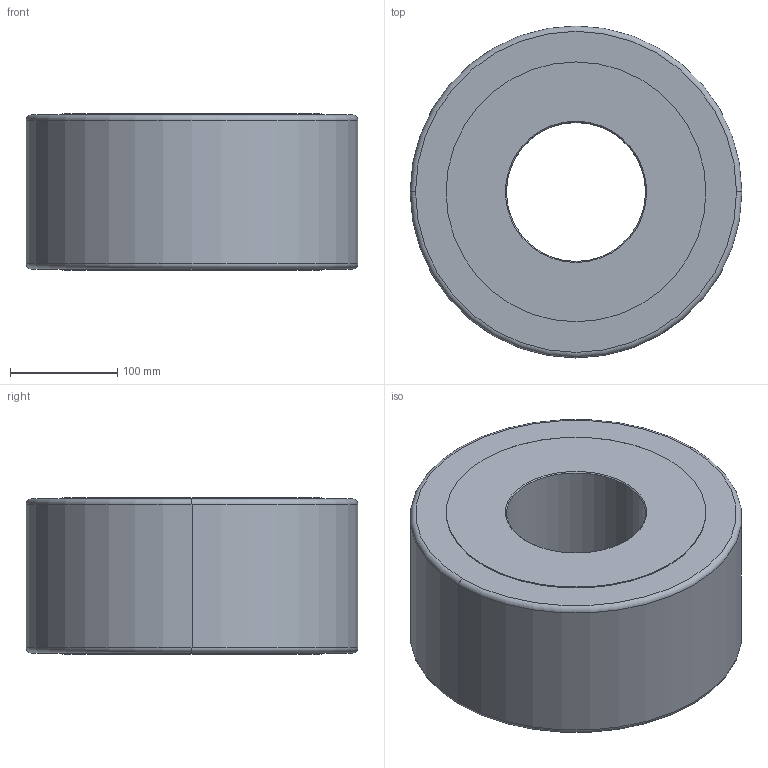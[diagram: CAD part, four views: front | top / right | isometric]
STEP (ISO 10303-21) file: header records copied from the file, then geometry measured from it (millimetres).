
FILE_DESCRIPTION (( 'STEP AP214' ), '1' );
FILE_NAME ('3DRSU130-310.STEP', '2013-12-19T09:49:32', ( 'usuario' ), ( 'Hewlett-Packard Company' ), 'SwSTEP 2.0', 'SolidWorks 2017', '' );
FILE_SCHEMA (( 'AUTOMOTIVE_DESIGN' ));
Length unit declared in the file: millimetre
Products named in the file (1): 3DRSU130-310
Bounding box: 310 x 310 x 146 mm (x, y, z)
Volume: 9012568.7 mm3; surface area: 321122.6 mm2
Topology: 1 solids, 1 shells, 20 faces, 40 edges, 24 vertices
Faces by surface type: cylinder 8, cone 4, torus 4, plane 4
Entity records: 566 total; most frequent: DIRECTION 110, CARTESIAN_POINT 85, ORIENTED_EDGE 80, AXIS2_PLACEMENT_3D 49, EDGE_CURVE 40, CIRCLE 28, EDGE_LOOP 24, VERTEX_POINT 24
